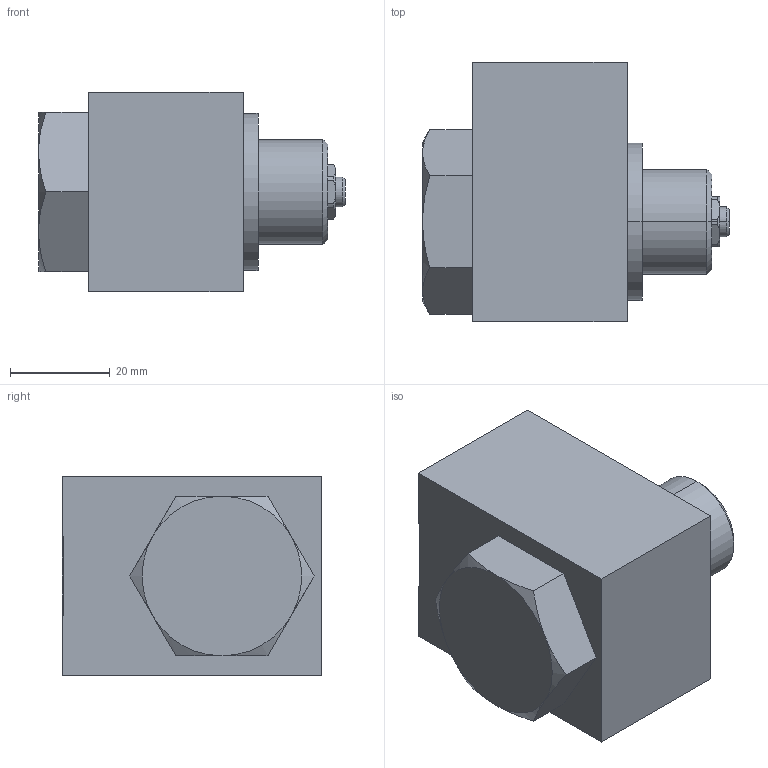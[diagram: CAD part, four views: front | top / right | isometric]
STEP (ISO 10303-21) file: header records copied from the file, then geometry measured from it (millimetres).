
FILE_DESCRIPTION (( 'STEP AP214' ), '1' );
FILE_NAME ('RBSW1012.STEP', '2017-05-08T12:22:28', ( '' ), ( '' ), 'SwSTEP 2.0', 'SolidWorks 2016', '' );
FILE_SCHEMA (( 'AUTOMOTIVE_DESIGN' ));
Length unit declared in the file: millimetre
Products named in the file (1): RBSW1012
Bounding box: 61.5 x 52 x 40 mm (x, y, z)
Volume: 74949.6 mm3; surface area: 14582.1 mm2
Topology: 3 solids, 3 shells, 134 faces, 315 edges, 197 vertices
Faces by surface type: plane 54, cylinder 37, cone 35, torus 8
Entity records: 5549 total; most frequent: CARTESIAN_POINT 1011, DIRECTION 668, ORIENTED_EDGE 630, EDGE_CURVE 315, AXIS2_PLACEMENT_3D 276, VERTEX_POINT 197, EDGE_LOOP 146, CIRCLE 141
